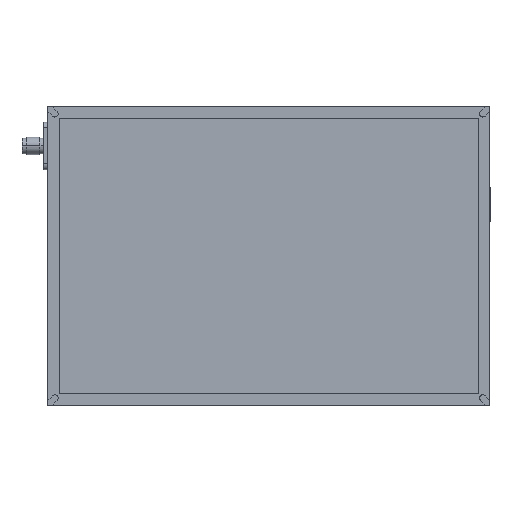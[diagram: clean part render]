
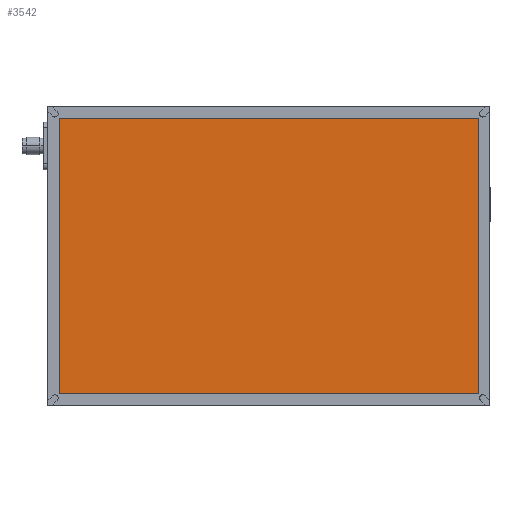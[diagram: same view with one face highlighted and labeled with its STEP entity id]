
A CAD part, top view. The second image highlights one B-rep face of the part: STEP entity #3542.
In plain terms, the highlighted planar face has unit normal (0, 0, 1).
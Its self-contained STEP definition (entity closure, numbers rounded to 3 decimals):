
#484 = DIRECTION ( 'NONE',  ( -1., 0., 0. ) ) ;
#1026 = DIRECTION ( 'NONE',  ( 0., -1., 0. ) ) ;
#1393 = FACE_OUTER_BOUND ( 'NONE', #13463, .T. ) ;
#1478 = LINE ( 'NONE', #13079, #13622 ) ;
#2591 = AXIS2_PLACEMENT_3D ( 'NONE', #16033, #10644, #4012 ) ;
#2837 = LINE ( 'NONE', #10955, #12193 ) ;
#3043 = CARTESIAN_POINT ( 'NONE',  ( 0., 4., 41.85 ) ) ;
#3542 = ADVANCED_FACE ( 'NONE', ( #1393 ), #10550, .F. ) ;
#3771 = CARTESIAN_POINT ( 'NONE',  ( 296., 196., 41.85 ) ) ;
#4012 = DIRECTION ( 'NONE',  ( -1., 0., 0. ) ) ;
#4890 = ORIENTED_EDGE ( 'NONE', *, *, #15268, .T. ) ;
#5223 = DIRECTION ( 'NONE',  ( 0., 1., 0. ) ) ;
#5927 = EDGE_CURVE ( 'NONE', #15683, #14182, #2837, .T. ) ;
#6531 = CARTESIAN_POINT ( 'NONE',  ( 4., 0., 41.85 ) ) ;
#7055 = DIRECTION ( 'NONE',  ( 1., 0., 0. ) ) ;
#7488 = VECTOR ( 'NONE', #7055, 1000. ) ;
#8514 = CARTESIAN_POINT ( 'NONE',  ( 4., 196., 41.85 ) ) ;
#8858 = VERTEX_POINT ( 'NONE', #15727 ) ;
#8964 = LINE ( 'NONE', #6531, #13096 ) ;
#9071 = ORIENTED_EDGE ( 'NONE', *, *, #5927, .T. ) ;
#9490 = EDGE_CURVE ( 'NONE', #14182, #8858, #8964, .T. ) ;
#9664 = LINE ( 'NONE', #3043, #7488 ) ;
#10550 = PLANE ( 'NONE',  #2591 ) ;
#10644 = DIRECTION ( 'NONE',  ( 0., 0., -1. ) ) ;
#10955 = CARTESIAN_POINT ( 'NONE',  ( 0., 196., 41.85 ) ) ;
#10961 = ORIENTED_EDGE ( 'NONE', *, *, #9490, .T. ) ;
#11740 = CARTESIAN_POINT ( 'NONE',  ( 296., 4., 41.85 ) ) ;
#12193 = VECTOR ( 'NONE', #484, 1000. ) ;
#12979 = EDGE_CURVE ( 'NONE', #8858, #16771, #9664, .T. ) ;
#13079 = CARTESIAN_POINT ( 'NONE',  ( 296., 0., 41.85 ) ) ;
#13096 = VECTOR ( 'NONE', #1026, 1000. ) ;
#13463 = EDGE_LOOP ( 'NONE', ( #4890, #9071, #10961, #13591 ) ) ;
#13591 = ORIENTED_EDGE ( 'NONE', *, *, #12979, .T. ) ;
#13622 = VECTOR ( 'NONE', #5223, 1000. ) ;
#14182 = VERTEX_POINT ( 'NONE', #8514 ) ;
#15268 = EDGE_CURVE ( 'NONE', #16771, #15683, #1478, .T. ) ;
#15683 = VERTEX_POINT ( 'NONE', #3771 ) ;
#15727 = CARTESIAN_POINT ( 'NONE',  ( 4., 4., 41.85 ) ) ;
#16033 = CARTESIAN_POINT ( 'NONE',  ( 0., 0., 41.85 ) ) ;
#16771 = VERTEX_POINT ( 'NONE', #11740 ) ;
